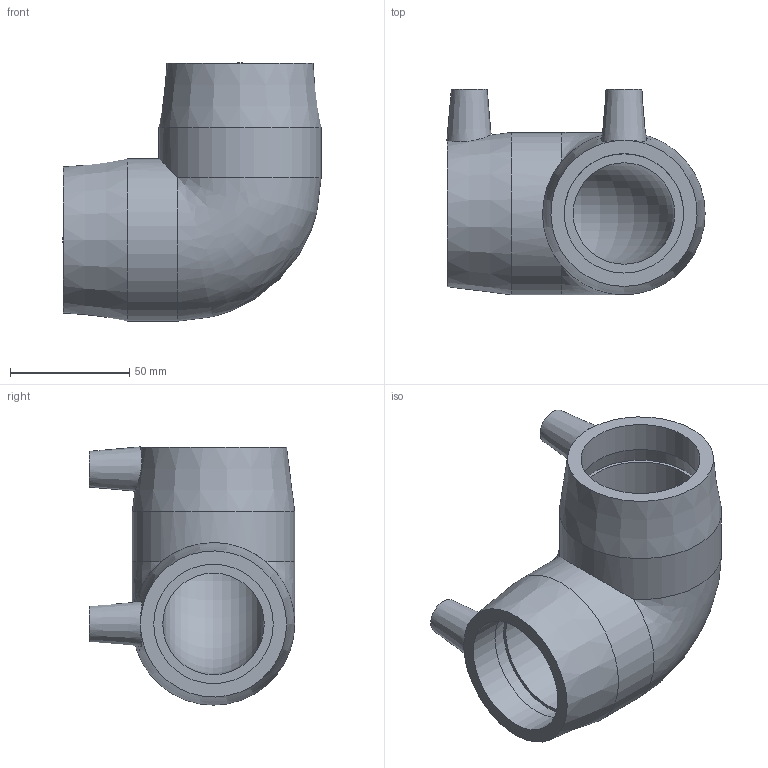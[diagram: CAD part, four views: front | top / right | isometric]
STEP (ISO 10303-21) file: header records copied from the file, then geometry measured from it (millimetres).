
FILE_DESCRIPTION(/* description */ ('PLASSON 90° ELBOW 50'),/* implementation_level */ '2;1');
FILE_NAME(/* name */ '490504050.stp',/* time_stamp */ '2026-03-22T13:14:57+02:00',/* author */ ('KIM'),/* organization */ (''),/* preprocessor_version */ 'ST-DEVELOPER v20.1',/* originating_system */ 'Autodesk Inventor 2026',/* authorisation */ '');
FILE_SCHEMA (('AUTOMOTIVE_DESIGN { 1 0 10303 214 3 1 1 }'));
Length unit declared in the file: millimetre
Products named in the file (1): 490504050
Bounding box: 108.17 x 86 x 108.17 mm (x, y, z)
Volume: 238547.7 mm3; surface area: 55945.7 mm2
Topology: 1 solids, 1 shells, 32 faces, 62 edges, 38 vertices
Faces by surface type: plane 12, cylinder 10, cone 8, bspline 1, torus 1
Full cylindrical faces by diameter (mm): 4 x2, 10 x2, 50 x4, 68 x2
Entity records: 945 total; most frequent: CARTESIAN_POINT 237, DIRECTION 152, ORIENTED_EDGE 120, AXIS2_PLACEMENT_3D 68, EDGE_CURVE 60, EDGE_LOOP 42, VERTEX_POINT 38, CIRCLE 35
